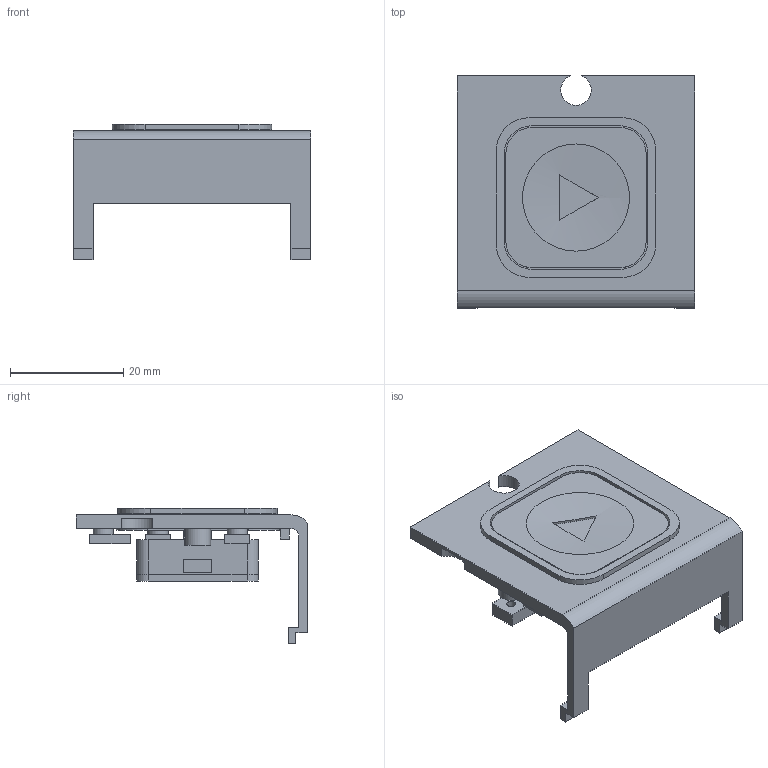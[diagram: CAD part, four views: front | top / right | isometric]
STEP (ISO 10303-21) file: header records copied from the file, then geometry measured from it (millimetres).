
FILE_DESCRIPTION(('Open CASCADE Model'),'2;1');
FILE_NAME('Open CASCADE Shape Model','2026-09-06T11:45:45',('Author'),( 'Open CASCADE'),'Open CASCADE STEP processor 7.7','Open CASCADE 7.7' ,'Unknown');
FILE_SCHEMA(('AUTOMOTIVE_DESIGN { 1 0 10303 214 1 1 1 1 }'));
Length unit declared in the file: millimetre
Products named in the file (20): C03_front_installation; tub; tub_part; key; key_part; carrier; carrier_part; retainer; retainer_part; rim; rim_part; 22_front_stop_-1_1; 22_front_stop_-1_1_part; 22_front_stop_1_1; 22_front_stop_1_1_part; 22_front_stop_1_-1; 22_front_stop_1_-1_part; 22_front_stop_-1_-1; 22_front_stop_-1_-1_part
Assembly tree (19 placements, depth 4):
  C03_front_installation
    C03_front_installation
      tub
        tub_part
      key
        key_part
      carrier
        carrier_part
      retainer
        retainer_part
      rim
        rim_part
      22_front_stop_-1_1
        22_front_stop_-1_1_part
      22_front_stop_1_1
        22_front_stop_1_1_part
      22_front_stop_1_-1
        22_front_stop_1_-1_part
      22_front_stop_-1_-1
        22_front_stop_-1_-1_part
Bounding box: 42 x 41 x 24 mm (x, y, z)
Volume: 8613 mm3; surface area: 9843.3 mm2
Topology: 9 solids, 9 shells, 268 faces, 647 edges, 431 vertices
Faces by surface type: plane 181, cylinder 86, sphere 1
Full cylindrical faces by diameter (mm): 1.1 x2, 1.25 x4, 1.4 x2, 1.5 x4, 1.6 x6, 1.8 x4, 2.6 x2, 3.6 x8, 4.6 x2
Entity records: 16923 total; most frequent: CARTESIAN_POINT 3315, DIRECTION 2560, LINE 1509, VECTOR 1509, ORIENTED_EDGE 1294, PCURVE 1294, DEFINITIONAL_REPRESENTATION 1294, EDGE_CURVE 647
